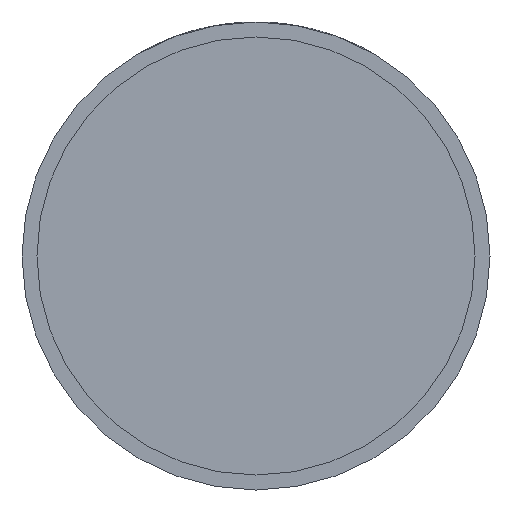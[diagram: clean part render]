
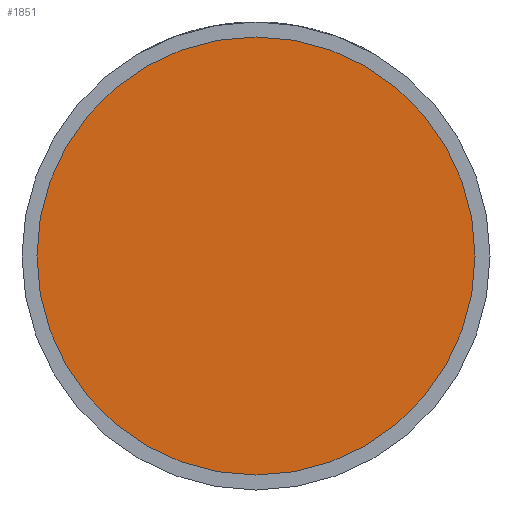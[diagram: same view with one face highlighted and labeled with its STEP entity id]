
A CAD part, front view. The second image highlights one B-rep face of the part: STEP entity #1851.
In plain terms, the highlighted planar face has unit normal (0, -1, 0).
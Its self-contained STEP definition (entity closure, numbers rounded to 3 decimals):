
#96 = PLANE ( 'NONE',  #2233 ) ;
#100 = ORIENTED_EDGE ( 'NONE', *, *, #1760, .T. ) ;
#376 = ORIENTED_EDGE ( 'NONE', *, *, #3994, .T. ) ;
#600 = DIRECTION ( 'NONE',  ( 1., 0., 0. ) ) ;
#933 = AXIS2_PLACEMENT_3D ( 'NONE', #1253, #4303, #600 ) ;
#1129 = VERTEX_POINT ( 'NONE', #3405 ) ;
#1142 = DIRECTION ( 'NONE',  ( 1., 0., 0. ) ) ;
#1253 = CARTESIAN_POINT ( 'NONE',  ( 0., -20., 0. ) ) ;
#1354 = VERTEX_POINT ( 'NONE', #2883 ) ;
#1760 = EDGE_CURVE ( 'NONE', #1354, #1129, #2863, .T. ) ;
#1851 = ADVANCED_FACE ( 'NONE', ( #3046 ), #96, .T. ) ;
#2026 = AXIS2_PLACEMENT_3D ( 'NONE', #3981, #3958, #3352 ) ;
#2233 = AXIS2_PLACEMENT_3D ( 'NONE', #3139, #2385, #1142 ) ;
#2385 = DIRECTION ( 'NONE',  ( 0., -1., 0. ) ) ;
#2583 = EDGE_LOOP ( 'NONE', ( #376, #100 ) ) ;
#2809 = CIRCLE ( 'NONE', #933, 33.7 ) ;
#2863 = CIRCLE ( 'NONE', #2026, 33.7 ) ;
#2883 = CARTESIAN_POINT ( 'NONE',  ( -33.7, -20., 0. ) ) ;
#3046 = FACE_OUTER_BOUND ( 'NONE', #2583, .T. ) ;
#3139 = CARTESIAN_POINT ( 'NONE',  ( 33.7, -20., 0. ) ) ;
#3352 = DIRECTION ( 'NONE',  ( 1., 0., 0. ) ) ;
#3405 = CARTESIAN_POINT ( 'NONE',  ( 33.7, -20., 0. ) ) ;
#3958 = DIRECTION ( 'NONE',  ( 0., -1., 0. ) ) ;
#3981 = CARTESIAN_POINT ( 'NONE',  ( 0., -20., 0. ) ) ;
#3994 = EDGE_CURVE ( 'NONE', #1129, #1354, #2809, .T. ) ;
#4303 = DIRECTION ( 'NONE',  ( 0., -1., 0. ) ) ;
